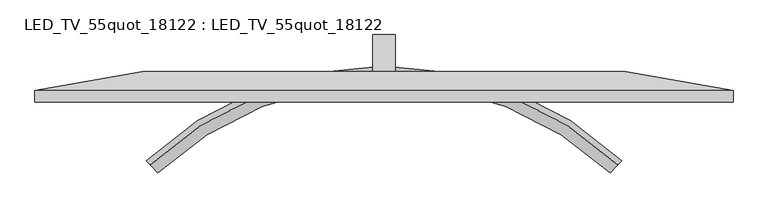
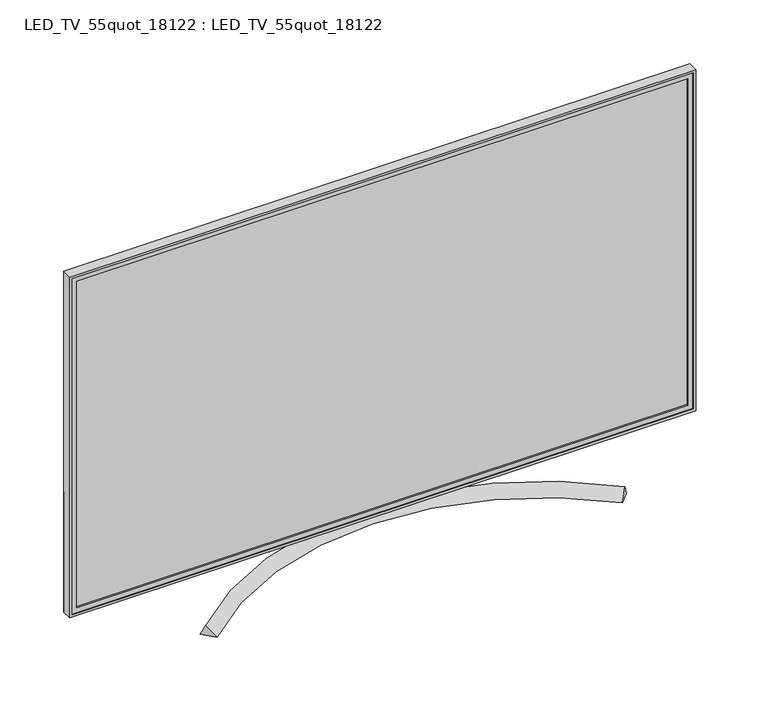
"""IFC4 building model written with IfcOpenShell, lengths in millimetres: furniture geometry, LED_TV_55quot_18122 : LED_TV_55quot_18122."""

from ifc_helpers import new_model, si_unit, frame, origin, place, context, project, spatial, polyline, circle_curve, outline, extrude, faceted_brep, source, transform, mapped, element, save
from ifc_brep_helpers import plane_surface, revolved_surface, advanced_brep


def led_tv_55quot_18122_led_tv_55quot_18122_4bed210d(model_context):
    return source(origin(), model_context, "Body", "SolidModel", [
        advanced_brep(
        [(540.9700163, -123.7343378, 631.1696631), (561.6057542, -145.5096982, 631.1696631), (547.8485956, -130.9927912, 651.1696631), (1359.5209522, -145.5096982, 631.1696631), (1380.15669, -123.7343378, 631.1696631), (1373.2781107, -130.9927912, 651.1696631)],
        [
            (0, 1),
            (1, 2),
            (2, 0),
            (3, 4),
            (4, 5),
            (5, 3),
            (3, 1, circle_curve(frame((960.5633532, -566.5, 631.1696631), z_axis=(0.0, 0.0, 1.0), x_axis=(-0.687857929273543, 0.7258453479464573, 0.0)), 580.0)),
            (0, 4, circle_curve(frame((960.5633532, -566.5, 631.1696631), z_axis=(0.0, 0.0, -1.0), x_axis=(-0.687857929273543, 0.7258453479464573, 0.0)), 610.0)),
            (5, 2, circle_curve(frame((960.5633532, -566.5, 651.1696631), z_axis=(0.0, 0.0, 1.0), x_axis=(-0.687857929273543, 0.7258453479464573, 0.0)), 600.0)),
        ],
        [
            plane_surface(frame((547.8485956, -130.9927912, 651.1696631), z_axis=(-0.7258453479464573, -0.687857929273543, 0.0), x_axis=(0.0, 0.0, 1.0))),
            plane_surface(frame((1373.2781107, -130.9927912, 651.1696631), z_axis=(0.7258453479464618, -0.6878579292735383, 0.0), x_axis=(0.0, 0.0, 1.0))),
            plane_surface(frame((960.5633532, -566.5, 631.1696631), z_axis=(0.0, 0.0, -1.0), x_axis=(-0.687857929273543, 0.7258453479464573, 0.0))),
            revolved_surface(polyline([(561.6057542, -145.5096982, 631.1696631), (547.8485956, -130.9927912, 651.1696631)]), (960.5633532, -566.5, 651.1696631), (0.0, 0.0, -1.0)),
            revolved_surface(polyline([(547.8485956, -130.9927912, 651.1696631), (540.9700163, -123.7343378, 631.1696631)]), (960.5633532, -566.5, 651.1696631), (0.0, 0.0, -1.0)),
        ],
        [
            (0, [[1, 2, 3]]),
            (1, [[4, 5, 6]]),
            (2, [[7, -1, 8, -4]]),
            (3, [[9, -2, -7, -6]]),
            (4, [[-8, -3, -9, -5]]),
        ],
    ),
        extrude(outline(polyline([(33.5, 771.1696631), (98.7830721, 631.1696631), (33.5, 631.1696631), (33.5, 671.1696631), (33.5, 771.1696631)])), frame((940.5633532, 0.0, 0.0), z_axis=(1.0, 0.0, 0.0), x_axis=(0.0, 1.0, 0.0)), (0.0, 0.0, 1.0), 40.0),
        faceted_brep([(1576.6633532, 0.0, 921.1696631), (344.4633532, 0.0, 921.1696631), (344.4633532, 0.0, 671.1696631), (1576.6633532, 0.0, 671.1696631), (534.4512941, 33.5, 671.1696631), (1386.6754122, 33.5, 671.1696631), (534.4512941, 33.5, 901.8284291), (1386.6754122, 33.5, 901.8284291)], [[[0, 1, 2, 3]], [[3, 2, 4, 5]], [[4, 6, 7, 5]], [[1, 0, 7, 6]], [[2, 1, 6, 4]], [[0, 3, 5, 7]]]),
        extrude(outline(polyline([(1561.6633532, -15.0), (359.4633532, -15.0), (359.4633532, 0.0), (1561.6633532, 0.0), (1561.6633532, -15.0)])), frame((0.0, 0.0, 686.1696631), z_axis=(0.0, 0.0, 1.0), x_axis=(1.0, 0.0, 0.0)), (0.0, 0.0, 1.0), 679.0),
        extrude(outline(polyline([(1375.1696631, 1571.6633532), (1375.1696631, 349.4633532), (676.1696631, 349.4633532), (676.1696631, 1571.6633532), (1375.1696631, 1571.6633532)]), holes=[polyline([(1365.1696631, 1561.6633532), (686.1696631, 1561.6633532), (686.1696631, 359.4633532), (1365.1696631, 359.4633532), (1365.1696631, 1561.6633532)])]), frame((0.0, -18.0, 0.0), z_axis=(0.0, 1.0, 0.0), x_axis=(0.0, 0.0, 1.0)), (0.0, 0.0, 1.0), 18.0),
        extrude(outline(polyline([(1380.1696631, 1576.6633532), (1380.1696631, 344.4633532), (671.1696631, 344.4633532), (671.1696631, 1576.6633532), (1380.1696631, 1576.6633532)]), holes=[polyline([(1375.1696631, 349.4633532), (1375.1696631, 1571.6633532), (676.1696631, 1571.6633532), (676.1696631, 349.4633532), (1375.1696631, 349.4633532)])]), frame((0.0, -20.0, 0.0), z_axis=(0.0, 1.0, 0.0), x_axis=(0.0, 0.0, 1.0)), (0.0, 0.0, 1.0), 20.0),
    ])


if __name__ == "__main__":
    model = new_model("IFC4")
    model_context = context("Model", 3, world=origin())
    ifc_project = project(units=[si_unit("LENGTHUNIT", "METRE", prefix="MILLI")], contexts=[model_context])
    site = spatial("IfcSite", under=ifc_project)
    building = spatial("IfcBuilding", under=site)
    placement = place(None, origin())
    led_tv_55quot_18122_led_tv_55quot_18122_shape = led_tv_55quot_18122_led_tv_55quot_18122_4bed210d(model_context)
    element("IfcFurniture", 1, ObjectType="LED_TV_55quot_18122 : LED_TV_55quot_18122", at=placement, inside=building, context=model_context, shape_type="MappedRepresentation", body=[
        mapped(led_tv_55quot_18122_led_tv_55quot_18122_shape, transform((0.0, 0.0, 0.0), x_axis=(1.0, 0.0, 0.0), y_axis=(0.0, 1.0, 0.0), z_axis=(0.0, 0.0, 1.0))),
    ])
    save(model, "model.ifc")
